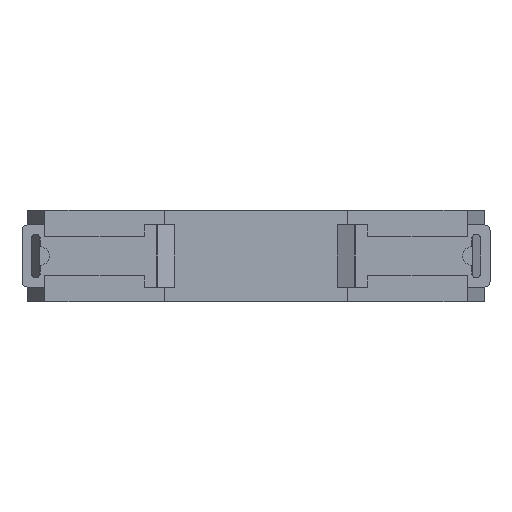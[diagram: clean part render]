
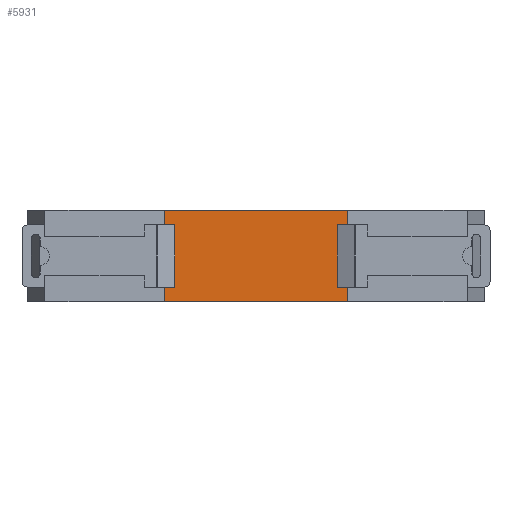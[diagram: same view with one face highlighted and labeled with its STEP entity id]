
A CAD part, left-side view. The second image highlights one B-rep face of the part: STEP entity #5931.
In plain terms, the highlighted planar face has unit normal (-1, 0, 0).
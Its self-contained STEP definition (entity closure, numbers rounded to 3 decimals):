
#751 = CARTESIAN_POINT ( 'NONE',  ( -60., -40.25, 18. ) ) ;
#809 = EDGE_LOOP ( 'NONE', ( #12865, #913, #13586, #12066 ) ) ;
#913 = ORIENTED_EDGE ( 'NONE', *, *, #4758, .F. ) ;
#1404 = LINE ( 'NONE', #15110, #7125 ) ;
#3045 = VECTOR ( 'NONE', #10740, 1000. ) ;
#3215 = VERTEX_POINT ( 'NONE', #10096 ) ;
#3245 = VECTOR ( 'NONE', #8937, 1000. ) ;
#4606 = DIRECTION ( 'NONE',  ( 0., 1., 0. ) ) ;
#4758 = EDGE_CURVE ( 'NONE', #12271, #3215, #11603, .T. ) ;
#5363 = DIRECTION ( 'NONE',  ( 0., 0., -1. ) ) ;
#5381 = CARTESIAN_POINT ( 'NONE',  ( -60., -4.25, 18. ) ) ;
#5747 = CARTESIAN_POINT ( 'NONE',  ( -60., -4.25, 18. ) ) ;
#5931 = ADVANCED_FACE ( 'NONE', ( #8453 ), #13149, .F. ) ;
#6405 = EDGE_CURVE ( 'NONE', #12297, #7160, #1404, .T. ) ;
#6470 = LINE ( 'NONE', #5381, #3245 ) ;
#7005 = CARTESIAN_POINT ( 'NONE',  ( -60., -4.25, 0. ) ) ;
#7125 = VECTOR ( 'NONE', #10337, 1000. ) ;
#7160 = VERTEX_POINT ( 'NONE', #7005 ) ;
#8453 = FACE_OUTER_BOUND ( 'NONE', #809, .T. ) ;
#8927 = AXIS2_PLACEMENT_3D ( 'NONE', #15502, #9441, #4606 ) ;
#8937 = DIRECTION ( 'NONE',  ( 0., -1., 0. ) ) ;
#9191 = EDGE_CURVE ( 'NONE', #12297, #12271, #6470, .T. ) ;
#9386 = CARTESIAN_POINT ( 'NONE',  ( -60., -4.25, 0. ) ) ;
#9441 = DIRECTION ( 'NONE',  ( 1., 0., 0. ) ) ;
#10096 = CARTESIAN_POINT ( 'NONE',  ( -60., -40.25, 0. ) ) ;
#10235 = VECTOR ( 'NONE', #5363, 1000. ) ;
#10270 = CARTESIAN_POINT ( 'NONE',  ( -60., -40.25, 18. ) ) ;
#10337 = DIRECTION ( 'NONE',  ( 0., 0., -1. ) ) ;
#10443 = EDGE_CURVE ( 'NONE', #7160, #3215, #15473, .T. ) ;
#10740 = DIRECTION ( 'NONE',  ( 0., -1., 0. ) ) ;
#11603 = LINE ( 'NONE', #10270, #10235 ) ;
#12066 = ORIENTED_EDGE ( 'NONE', *, *, #6405, .T. ) ;
#12271 = VERTEX_POINT ( 'NONE', #751 ) ;
#12297 = VERTEX_POINT ( 'NONE', #5747 ) ;
#12865 = ORIENTED_EDGE ( 'NONE', *, *, #10443, .T. ) ;
#13149 = PLANE ( 'NONE',  #8927 ) ;
#13586 = ORIENTED_EDGE ( 'NONE', *, *, #9191, .F. ) ;
#15110 = CARTESIAN_POINT ( 'NONE',  ( -60., -4.25, 18. ) ) ;
#15473 = LINE ( 'NONE', #9386, #3045 ) ;
#15502 = CARTESIAN_POINT ( 'NONE',  ( -60., -4.25, 18. ) ) ;
